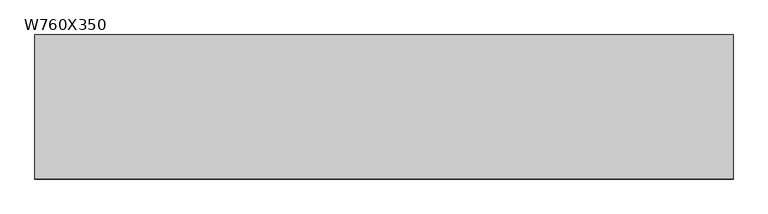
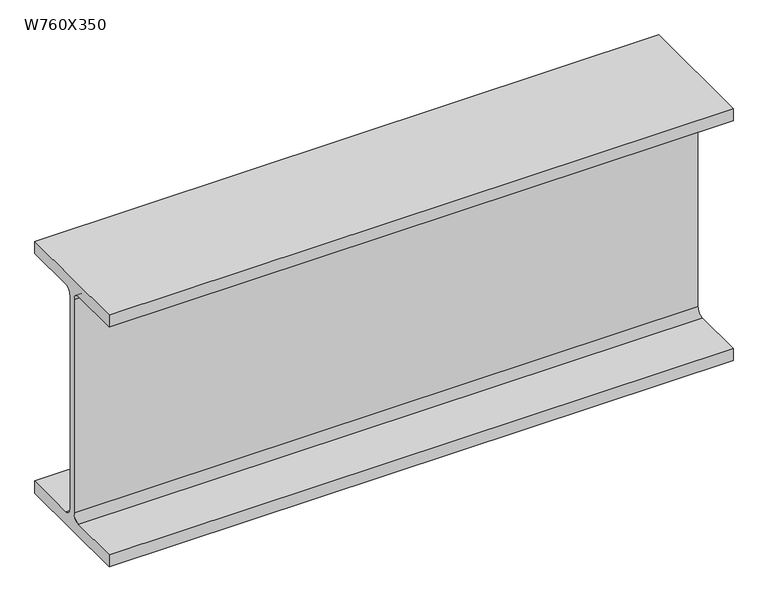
"""IFC4 building model written with IfcOpenShell, lengths in millimetres: beam geometry, M_W-Wide Flange : W760X350."""

from ifc_helpers import new_model, si_unit, point, frame, frame_2d, origin, place, context, project, spatial, polyline, circle_curve, trimmed, segment, composite_curve, outline, extrude, source, transform, mapped, element, save


def w760x350_d8cf7d22(model_context):
    return source(origin(), model_context, "Body", "SweptSolid", [
        extrude(outline(composite_curve([segment(polyline([(192.0, -359.4), (192.0, -397.5), (-192.0, -397.5), (-192.0, -359.4), (-32.75, -359.4)]), True, "CONTINUOUS"), segment(trimmed(circle_curve(frame_2d((-32.75, -337.2)), 22.2), [point((-32.75, -359.4))], [point((-10.55, -337.2))], True, "CARTESIAN"), True, "CONTINUOUS"), segment(polyline([(-10.55, -337.2), (-10.55, 337.2)]), True, "CONTINUOUS"), segment(trimmed(circle_curve(frame_2d((-32.75, 337.2)), 22.2), [point((-10.55, 337.2))], [point((-32.75, 359.4))], True, "CARTESIAN"), True, "CONTINUOUS"), segment(polyline([(-32.75, 359.4), (-192.0, 359.4), (-192.0, 397.5), (192.0, 397.5), (192.0, 359.4), (32.75, 359.4)]), True, "CONTINUOUS"), segment(trimmed(circle_curve(frame_2d((32.75, 337.2)), 22.2), [point((32.75, 359.4))], [point((10.55, 337.2))], True, "CARTESIAN"), True, "CONTINUOUS"), segment(polyline([(10.55, 337.2), (10.55, -337.2)]), True, "CONTINUOUS"), segment(trimmed(circle_curve(frame_2d((32.75, -337.2)), 22.2), [point((10.55, -337.2))], [point((32.75, -359.4))], True, "CARTESIAN"), True, "CONTINUOUS"), segment(polyline([(32.75, -359.4), (192.0, -359.4)]), True, "CONTINUOUS")], self_intersect=False)), frame((-1008.2943939, 0.0, 0.0), z_axis=(1.0, 0.0, 0.0), x_axis=(0.0, 1.0, 0.0)), (0.0, 0.0, 1.0), 1861.2599278),
    ])


if __name__ == "__main__":
    model = new_model("IFC4")
    model_context = context("Model", 3, world=origin())
    ifc_project = project(units=[si_unit("LENGTHUNIT", "METRE", prefix="MILLI")], contexts=[model_context])
    site = spatial("IfcSite", under=ifc_project)
    building = spatial("IfcBuilding", under=site)
    placement = place(None, origin())
    w760x350_shape = w760x350_d8cf7d22(model_context)
    element("IfcBeam", 1, ObjectType="M_W-Wide Flange : W760X350", at=placement, inside=building, context=model_context, shape_type="MappedRepresentation", body=[
        mapped(w760x350_shape, transform((0.0, 0.0, 0.0), x_axis=(1.0, 0.0, 0.0), y_axis=(0.0, 1.0, 0.0), z_axis=(0.0, 0.0, 1.0))),
    ])
    save(model, "model.ifc")
